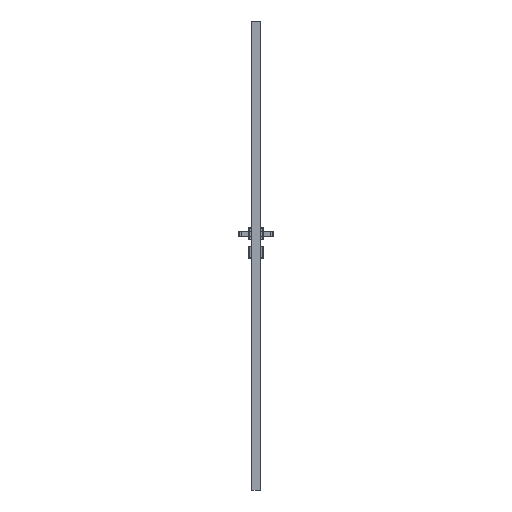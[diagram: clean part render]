
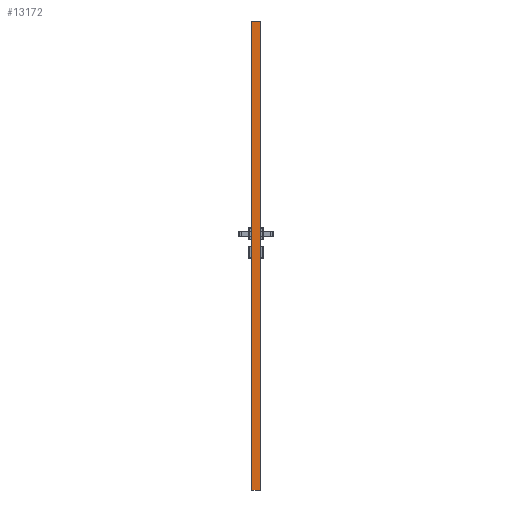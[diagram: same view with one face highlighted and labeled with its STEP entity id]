
A CAD part, left-side view. The second image highlights one B-rep face of the part: STEP entity #13172.
In plain terms, the highlighted planar face has unit normal (-1, 0, 0).
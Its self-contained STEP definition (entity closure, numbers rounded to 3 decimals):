
#7499=FACE_OUTER_BOUND('',#23533,.T.);
#13172=ADVANCED_FACE('',(#7499),#18499,.F.);
#18499=PLANE('',#102438);
#23533=EDGE_LOOP('',(#32838,#32839,#32840,#32841,#32842,#32843));
#32838=ORIENTED_EDGE('',*,*,#69267,.T.);
#32839=ORIENTED_EDGE('',*,*,#69260,.F.);
#32840=ORIENTED_EDGE('',*,*,#69268,.T.);
#32841=ORIENTED_EDGE('',*,*,#69264,.T.);
#32842=ORIENTED_EDGE('',*,*,#69269,.T.);
#32843=ORIENTED_EDGE('',*,*,#68162,.T.);
#59052=VERTEX_POINT('',#136649);
#59053=VERTEX_POINT('',#136651);
#59691=VERTEX_POINT('',#140273);
#59693=VERTEX_POINT('',#140276);
#59695=VERTEX_POINT('',#140282);
#59697=VERTEX_POINT('',#140285);
#68162=EDGE_CURVE('',#59053,#59052,#82532,.T.);
#69260=EDGE_CURVE('',#59691,#59693,#83312,.T.);
#69264=EDGE_CURVE('',#59697,#59695,#83316,.T.);
#69267=EDGE_CURVE('',#59052,#59693,#83319,.T.);
#69268=EDGE_CURVE('',#59691,#59697,#83320,.T.);
#69269=EDGE_CURVE('',#59695,#59053,#83321,.T.);
#82532=LINE('',#136650,#92333);
#83312=LINE('',#140275,#93113);
#83316=LINE('',#140284,#93117);
#83319=LINE('',#140290,#93120);
#83320=LINE('',#140291,#93121);
#83321=LINE('',#140292,#93122);
#92333=VECTOR('',#109929,1.);
#93113=VECTOR('',#111589,1.);
#93117=VECTOR('',#111595,1.);
#93120=VECTOR('',#111600,1.);
#93121=VECTOR('',#111601,1.);
#93122=VECTOR('',#111602,1.);
#102438=AXIS2_PLACEMENT_3D('',#140293,#111603,#111604);
#109929=DIRECTION('',(0.,-1.,0.));
#111589=DIRECTION('',(0.,0.,-1.));
#111595=DIRECTION('',(0.,0.,-1.));
#111600=DIRECTION('',(0.,-0.894,0.447));
#111601=DIRECTION('',(0.,1.,0.));
#111602=DIRECTION('',(0.,-0.894,-0.447));
#111603=DIRECTION('',(1.,0.,0.));
#111604=DIRECTION('',(0.,0.,-1.));
#136649=CARTESIAN_POINT('',(-309.,-38.,0.));
#136650=CARTESIAN_POINT('',(-309.,0.,0.));
#136651=CARTESIAN_POINT('',(-309.,-2.,0.));
#140273=CARTESIAN_POINT('',(-309.,-40.,2017.));
#140275=CARTESIAN_POINT('',(-309.,-40.,2250.));
#140276=CARTESIAN_POINT('',(-309.,-40.,1.));
#140282=CARTESIAN_POINT('',(-309.,0.,1.));
#140284=CARTESIAN_POINT('',(-309.,0.,2250.));
#140285=CARTESIAN_POINT('',(-309.,0.,2017.));
#140290=CARTESIAN_POINT('',(-309.,-38.,0.));
#140291=CARTESIAN_POINT('',(-309.,-40.,2017.));
#140292=CARTESIAN_POINT('',(-309.,0.,1.));
#140293=CARTESIAN_POINT('',(-309.,0.,2250.));
